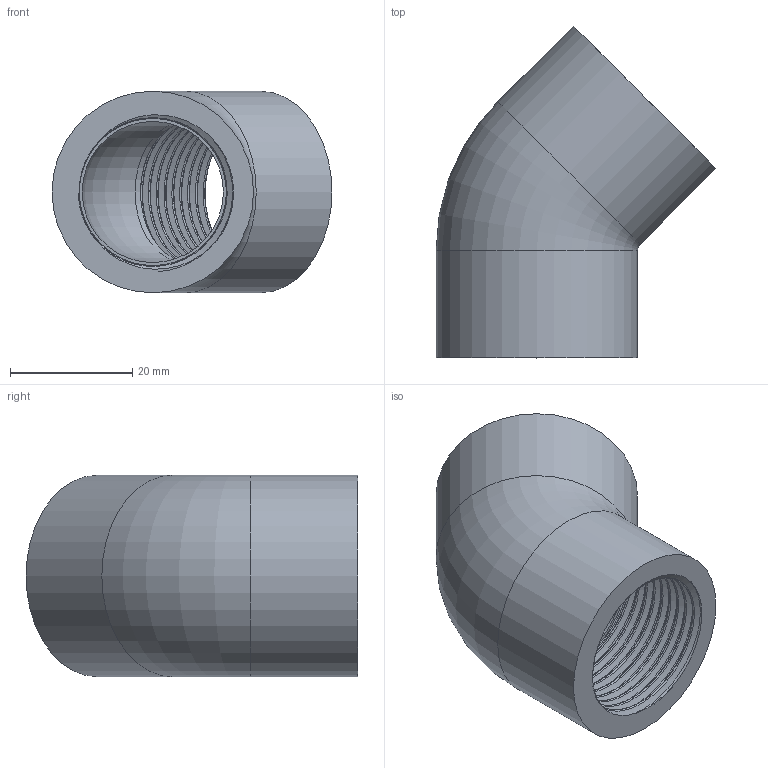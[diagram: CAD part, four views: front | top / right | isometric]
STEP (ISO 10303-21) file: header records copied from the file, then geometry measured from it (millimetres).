
FILE_DESCRIPTION(/* description */ ('PVC gomito a 45° incollaggio metrico'),/* implementation_level */ '2;1');
FILE_NAME(/* name */ 'C:\Users\POLYPIPE\Desktop\DATASET INVENTOR\LIBRERIA EFFAST\RACCORDI 3DxWEB\RER\3D_RERGYE\3D_RERGYE025C.stp',/* time_stamp */ '2018-01-19T16:33:53+01:00',/* author */ ('POLYPIPE'),/* organization */ ('Polypipe Italia s.r.l.'),/* preprocessor_version */ 'ST-DEVELOPER v16.1',/* originating_system */ 'Autodesk Inventor 2016',/* authorisation */ '');
FILE_SCHEMA (('CONFIG_CONTROL_DESIGN'));
Length unit declared in the file: millimetre
Products named in the file (1): 3D_RERGYE
Bounding box: 45.84 x 54.34 x 33 mm (x, y, z)
Volume: 18660.5 mm3; surface area: 11907.2 mm2
Topology: 1 solids, 1 shells, 24 faces, 50 edges, 30 vertices
Faces by surface type: bspline 10, cylinder 6, plane 6, torus 2
Full cylindrical faces by diameter (mm): 23.117 x2, 24.117 x2, 33 x2
Entity records: 7842 total; most frequent: CARTESIAN_POINT 7387, ORIENTED_EDGE 88, DIRECTION 68, EDGE_CURVE 44, EDGE_LOOP 34, AXIS2_PLACEMENT_3D 31, VERTEX_POINT 30, FACE_OUTER_BOUND 24
